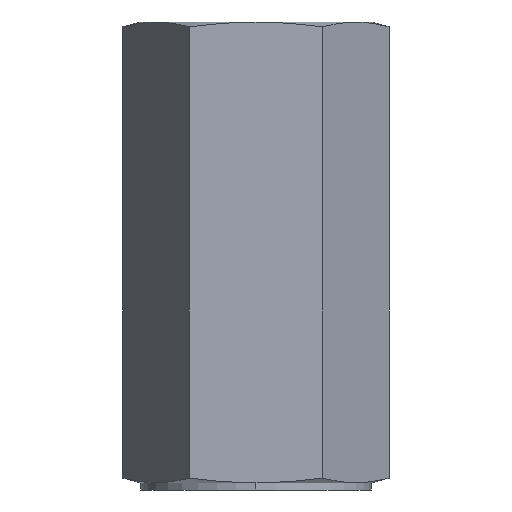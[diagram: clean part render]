
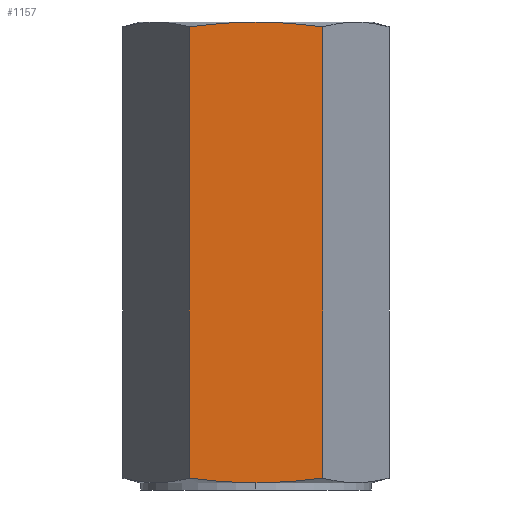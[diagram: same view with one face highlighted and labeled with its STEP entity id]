
A CAD part, left-side view. The second image highlights one B-rep face of the part: STEP entity #1157.
In plain terms, the highlighted planar face has unit normal (-1, 0, 0).
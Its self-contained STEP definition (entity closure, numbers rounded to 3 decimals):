
#249=CARTESIAN_POINT('',(-32.5,-18.764,3.347));
#254=DIRECTION('',(0.,0.,1.));
#255=VECTOR('',#254,127.306);
#256=CARTESIAN_POINT('',(-32.5,-18.764,3.347));
#257=LINE('',#256,#255);
#279=CARTESIAN_POINT('',(-32.5,-18.764,130.653));
#307=CARTESIAN_POINT('',(-32.5,-18.764,3.347));
#308=CARTESIAN_POINT('',(-32.5,-18.335,3.29));
#309=CARTESIAN_POINT('',(-32.5,-17.48,3.178));
#310=CARTESIAN_POINT('',(-32.5,-16.214,3.022));
#311=CARTESIAN_POINT('',(-32.5,-14.957,2.876));
#312=CARTESIAN_POINT('',(-32.5,-13.708,2.741));
#313=CARTESIAN_POINT('',(-32.5,-12.465,2.617));
#314=CARTESIAN_POINT('',(-32.5,-11.224,2.503));
#315=CARTESIAN_POINT('',(-32.5,-9.984,2.4));
#316=CARTESIAN_POINT('',(-32.5,-8.744,2.308));
#317=CARTESIAN_POINT('',(-32.5,-7.502,2.227));
#318=CARTESIAN_POINT('',(-32.5,-6.257,2.158));
#319=CARTESIAN_POINT('',(-32.5,-5.01,2.101));
#320=CARTESIAN_POINT('',(-32.5,-3.761,2.056));
#321=CARTESIAN_POINT('',(-32.5,-2.508,2.024));
#322=CARTESIAN_POINT('',(-32.5,-1.255,2.004));
#323=CARTESIAN_POINT('',(-32.5,-0.418,2.));
#324=CARTESIAN_POINT('',(-32.5,0.,2.));
#329=CARTESIAN_POINT('',(-32.5,0.,2.));
#330=CARTESIAN_POINT('',(-32.5,0.419,2.));
#331=CARTESIAN_POINT('',(-32.5,1.256,2.004));
#332=CARTESIAN_POINT('',(-32.5,2.51,2.024));
#333=CARTESIAN_POINT('',(-32.5,3.763,2.056));
#334=CARTESIAN_POINT('',(-32.5,5.014,2.101));
#335=CARTESIAN_POINT('',(-32.5,6.262,2.158));
#336=CARTESIAN_POINT('',(-32.5,7.507,2.227));
#337=CARTESIAN_POINT('',(-32.5,8.749,2.308));
#338=CARTESIAN_POINT('',(-32.5,9.99,2.4));
#339=CARTESIAN_POINT('',(-32.5,11.229,2.503));
#340=CARTESIAN_POINT('',(-32.5,12.47,2.617));
#341=CARTESIAN_POINT('',(-32.5,13.713,2.742));
#342=CARTESIAN_POINT('',(-32.5,14.961,2.877));
#343=CARTESIAN_POINT('',(-32.5,16.217,3.022));
#344=CARTESIAN_POINT('',(-32.5,17.482,3.178));
#345=CARTESIAN_POINT('',(-32.5,18.335,3.29));
#346=CARTESIAN_POINT('',(-32.5,18.764,3.347));
#351=DIRECTION('',(0.,0.,1.));
#352=VECTOR('',#351,127.306);
#353=CARTESIAN_POINT('',(-32.5,18.764,3.347));
#354=LINE('',#353,#352);
#358=CARTESIAN_POINT('',(-32.5,0.,132.));
#359=CARTESIAN_POINT('',(-32.5,0.419,132.));
#360=CARTESIAN_POINT('',(-32.5,1.256,131.996));
#361=CARTESIAN_POINT('',(-32.5,2.51,131.976));
#362=CARTESIAN_POINT('',(-32.5,3.763,131.944));
#363=CARTESIAN_POINT('',(-32.5,5.014,131.899));
#364=CARTESIAN_POINT('',(-32.5,6.262,131.842));
#365=CARTESIAN_POINT('',(-32.5,7.507,131.773));
#366=CARTESIAN_POINT('',(-32.5,8.749,131.692));
#367=CARTESIAN_POINT('',(-32.5,9.99,131.6));
#368=CARTESIAN_POINT('',(-32.5,11.229,131.497));
#369=CARTESIAN_POINT('',(-32.5,12.47,131.383));
#370=CARTESIAN_POINT('',(-32.5,13.713,131.258));
#371=CARTESIAN_POINT('',(-32.5,14.961,131.123));
#372=CARTESIAN_POINT('',(-32.5,16.217,130.978));
#373=CARTESIAN_POINT('',(-32.5,17.482,130.822));
#374=CARTESIAN_POINT('',(-32.5,18.335,130.71));
#375=CARTESIAN_POINT('',(-32.5,18.764,130.653));
#380=CARTESIAN_POINT('',(-32.5,-18.764,130.653));
#381=CARTESIAN_POINT('',(-32.5,-18.335,130.71));
#382=CARTESIAN_POINT('',(-32.5,-17.48,130.822));
#383=CARTESIAN_POINT('',(-32.5,-16.214,130.978));
#384=CARTESIAN_POINT('',(-32.5,-14.957,131.124));
#385=CARTESIAN_POINT('',(-32.5,-13.708,131.259));
#386=CARTESIAN_POINT('',(-32.5,-12.465,131.383));
#387=CARTESIAN_POINT('',(-32.5,-11.224,131.497));
#388=CARTESIAN_POINT('',(-32.5,-9.984,131.6));
#389=CARTESIAN_POINT('',(-32.5,-8.744,131.692));
#390=CARTESIAN_POINT('',(-32.5,-7.502,131.773));
#391=CARTESIAN_POINT('',(-32.5,-6.257,131.842));
#392=CARTESIAN_POINT('',(-32.5,-5.01,131.899));
#393=CARTESIAN_POINT('',(-32.5,-3.761,131.944));
#394=CARTESIAN_POINT('',(-32.5,-2.508,131.976));
#395=CARTESIAN_POINT('',(-32.5,-1.255,131.996));
#396=CARTESIAN_POINT('',(-32.5,-0.418,132.));
#397=CARTESIAN_POINT('',(-32.5,0.,132.));
#402=CARTESIAN_POINT('',(-32.5,18.764,3.347));
#478=CARTESIAN_POINT('',(-32.5,18.764,130.653));
#921=CARTESIAN_POINT('',(-32.5,0.,132.));
#922=VERTEX_POINT('',#921);
#929=VERTEX_POINT('',#249);
#931=VERTEX_POINT('',#279);
#941=VERTEX_POINT('',#402);
#943=VERTEX_POINT('',#478);
#944=VERTEX_POINT('',#324);
#1141=CARTESIAN_POINT('',(-32.5,18.764,0.));
#1142=DIRECTION('',(-1.,0.,0.));
#1143=DIRECTION('',(0.,-1.,0.));
#1144=AXIS2_PLACEMENT_3D('',#1141,#1142,#1143);
#1145=PLANE('',#1144);
#1146=ORIENTED_EDGE('',*,*,#1106,.T.);
#1147=ORIENTED_EDGE('',*,*,#1060,.T.);
#1149=ORIENTED_EDGE('',*,*,#1148,.T.);
#1151=ORIENTED_EDGE('',*,*,#1150,.F.);
#1153=ORIENTED_EDGE('',*,*,#1152,.F.);
#1154=ORIENTED_EDGE('',*,*,#1130,.F.);
#1155=EDGE_LOOP('',(#1146,#1147,#1149,#1151,#1153,#1154));
#1156=FACE_OUTER_BOUND('',#1155,.F.);
#325=B_SPLINE_CURVE_WITH_KNOTS('',3,(#307,#308,#309,#310,#311,#312,#313,#314,
#315,#316,#317,#318,#319,#320,#321,#322,#323,#324),.UNSPECIFIED.,.F.,.F.,(4,1,1,
1,1,1,1,1,1,1,1,1,1,1,1,4),(0.,0.067,0.133,0.2,
0.267,0.333,0.4,0.467,0.533,
0.6,0.667,0.733,0.8,0.867,
0.933,1.),.UNSPECIFIED.);
#347=B_SPLINE_CURVE_WITH_KNOTS('',3,(#329,#330,#331,#332,#333,#334,#335,#336,
#337,#338,#339,#340,#341,#342,#343,#344,#345,#346),.UNSPECIFIED.,.F.,.F.,(4,1,1,
1,1,1,1,1,1,1,1,1,1,1,1,4),(0.,0.067,0.133,0.2,
0.267,0.333,0.4,0.467,0.533,
0.6,0.667,0.733,0.8,0.867,
0.933,1.),.UNSPECIFIED.);
#376=B_SPLINE_CURVE_WITH_KNOTS('',3,(#358,#359,#360,#361,#362,#363,#364,#365,
#366,#367,#368,#369,#370,#371,#372,#373,#374,#375),.UNSPECIFIED.,.F.,.F.,(4,1,1,
1,1,1,1,1,1,1,1,1,1,1,1,4),(0.,0.067,0.133,0.2,
0.267,0.333,0.4,0.467,0.533,
0.6,0.667,0.733,0.8,0.867,
0.933,1.),.UNSPECIFIED.);
#398=B_SPLINE_CURVE_WITH_KNOTS('',3,(#380,#381,#382,#383,#384,#385,#386,#387,
#388,#389,#390,#391,#392,#393,#394,#395,#396,#397),.UNSPECIFIED.,.F.,.F.,(4,1,1,
1,1,1,1,1,1,1,1,1,1,1,1,4),(0.,0.067,0.133,0.2,
0.267,0.333,0.4,0.467,0.533,
0.6,0.667,0.733,0.8,0.867,
0.933,1.),.UNSPECIFIED.);
#1060=EDGE_CURVE('',#944,#941,#347,.T.);
#1106=EDGE_CURVE('',#929,#944,#325,.T.);
#1130=EDGE_CURVE('',#929,#931,#257,.T.);
#1148=EDGE_CURVE('',#941,#943,#354,.T.);
#1150=EDGE_CURVE('',#922,#943,#376,.T.);
#1152=EDGE_CURVE('',#931,#922,#398,.T.);
#1157=ADVANCED_FACE('',(#1156),#1145,.T.);
